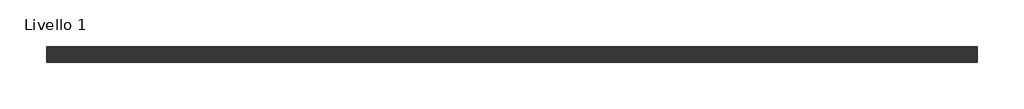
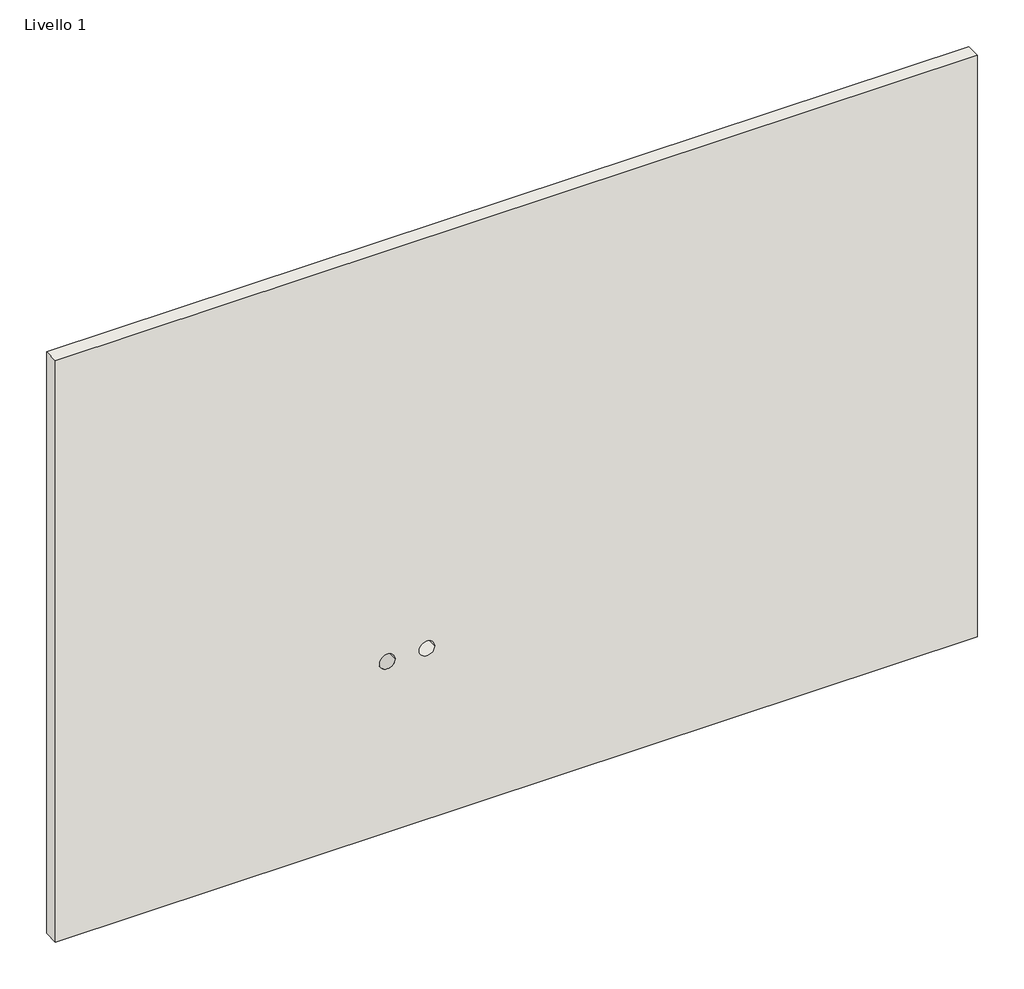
# One storey, incomplete: 1 wall.
"""IFC4 building model written with IfcOpenShell, lengths in millimetres."""

import ifcopenshell
import ifcopenshell.guid

model = None  # the IFC model being written
_history = None  # IfcOwnerHistory: only IFC2X3 demands one
_inside = {}  # id of a spatial element -> (the spatial element, [elements in it])
_under = {}  # id of a project, library or spatial element -> (it, [spatial elements below it])
_declared = {}  # id of a project -> (the project, [libraries it declares])
_typed = {}  # id of a type object -> (the type object, [elements of that type])
_made_of = {}  # id of a material, layer set ... -> (it, [elements and type objects made of it])


def new_model(schema):
    """Start an empty IFC model of exactly this schema.

    Asked for "IFC4X3", IfcOpenShell would pick the latest addendum, in which some entities
    have other attributes; the version numbers below select the first issue.
    IFC2X3 requires an IfcOwnerHistory on every rooted entity: one is made here for all.
    """
    global model, _history
    if schema == "IFC4X3":
        model = ifcopenshell.file(schema_version=(4, 3, 0, 0))
    else:
        model = ifcopenshell.file(schema=schema)
    _inside.clear()
    _under.clear()
    _declared.clear()
    _typed.clear()
    _made_of.clear()
    _history = None
    if model.schema == "IFC2X3":
        org = make("IfcOrganization", Name="unknown")
        user = make(
            "IfcPersonAndOrganization",
            ThePerson=make("IfcPerson", FamilyName="unknown"),
            TheOrganization=org,
        )
        app = make(
            "IfcApplication",
            ApplicationDeveloper=org,
            Version="unknown",
            ApplicationFullName="unknown",
            ApplicationIdentifier="unknown",
        )
        _history = make(
            "IfcOwnerHistory",
            OwningUser=user,
            OwningApplication=app,
            ChangeAction="ADDED",
            CreationDate=0,
        )
    return model


def make(cls, **values):
    """One entity of the class cls with the attributes given. An attribute that is None is left unset."""
    return model.create_entity(
        cls, **{name: value for name, value in values.items() if value is not None}
    )


def rooted(cls, **values):
    """An entity with a GlobalId (a new one), such as an element, a storey or a relation."""
    return make(cls, GlobalId=ifcopenshell.guid.new(), OwnerHistory=_history, **values)


def si_unit(unit_type, name, prefix=None):
    """IfcSIUnit, for example si_unit("LENGTHUNIT", "METRE", prefix="MILLI")."""
    return make("IfcSIUnit", UnitType=unit_type, Prefix=prefix, Name=name)


def assignment(units):
    """IfcUnitAssignment: the units of a project."""
    return None if units is None else make("IfcUnitAssignment", Units=units)


def point(xyz):
    """IfcCartesianPoint."""
    return None if xyz is None else make("IfcCartesianPoint", Coordinates=xyz)


def direction(xyz):
    """IfcDirection."""
    return None if xyz is None else make("IfcDirection", DirectionRatios=xyz)


def frame(location, z_axis=None, x_axis=None):
    """IfcAxis2Placement3D, a coordinate frame: its origin and axes. An axis left out is left unset."""
    return make(
        "IfcAxis2Placement3D",
        Location=point(location),
        Axis=direction(z_axis),
        RefDirection=direction(x_axis),
    )


def frame_2d(location, x_axis=None):
    """IfcAxis2Placement2D, a coordinate frame in the plane: its origin and x axis."""
    return make(
        "IfcAxis2Placement2D", Location=point(location), RefDirection=direction(x_axis)
    )


def origin():
    """The frame at (0, 0, 0) with its axes left unset."""
    return frame((0.0, 0.0, 0.0))


def place(relative_to, where):
    """IfcLocalPlacement: puts the frame where relative to a parent placement (None: the world)."""
    return make(
        "IfcLocalPlacement", PlacementRelTo=relative_to, RelativePlacement=where
    )


def context(
    kind, dimensions, precision=None, world=None, true_north=None, identifier=None
):
    """IfcGeometricRepresentationContext, for example the 3D "Model" context."""
    return make(
        "IfcGeometricRepresentationContext",
        ContextIdentifier=identifier,
        ContextType=kind,
        CoordinateSpaceDimension=dimensions,
        Precision=precision,
        WorldCoordinateSystem=world,
        TrueNorth=true_north,
    )


def project(units=None, contexts=None):
    """IfcProject with its units and contexts."""
    return rooted(
        "IfcProject",
        Name="project",
        RepresentationContexts=contexts,
        UnitsInContext=assignment(units),
    )


def spatial(cls, under=None, at=None, **own):
    """A site, building, storey or space (cls), placed at a placement, below another one or the project."""
    s = rooted(cls, ObjectPlacement=at, **own)
    if under is not None:
        _under.setdefault(under.id(), (under, []))[1].append(s)
    return s


def polyline(points):
    """IfcPolyline through the points."""
    return make("IfcPolyline", Points=[point(p) for p in points])


def circle_curve(where, radius):
    """IfcCircle in the frame where."""
    return make("IfcCircle", Position=where, Radius=radius)


def trimmed(basis, trim1, trim2, sense, master):
    """IfcTrimmedCurve: the piece of a basis curve between two trims."""
    return make(
        "IfcTrimmedCurve",
        BasisCurve=basis,
        Trim1=trim1,
        Trim2=trim2,
        SenseAgreement=sense,
        MasterRepresentation=master,
    )


def segment(curve, same_sense, transition):
    """IfcCompositeCurveSegment."""
    return make(
        "IfcCompositeCurveSegment",
        Transition=transition,
        SameSense=same_sense,
        ParentCurve=curve,
    )


def composite_curve(segments, self_intersect=None):
    """IfcCompositeCurve: segments joined end to end."""
    return make("IfcCompositeCurve", Segments=segments, SelfIntersect=self_intersect)


def outline(outer, holes=None, kind="AREA"):
    """IfcArbitraryClosedProfileDef: a profile drawn as a closed curve; with holes, ...WithVoids."""
    if holes is None:
        return make("IfcArbitraryClosedProfileDef", ProfileType=kind, OuterCurve=outer)
    return make(
        "IfcArbitraryProfileDefWithVoids",
        ProfileType=kind,
        OuterCurve=outer,
        InnerCurves=holes,
    )


def extrude(swept, where, along, depth):
    """IfcExtrudedAreaSolid: the profile swept, set in the frame where, extruded along a direction by depth."""
    return make(
        "IfcExtrudedAreaSolid",
        SweptArea=swept,
        Position=where,
        ExtrudedDirection=direction(along),
        Depth=depth,
    )


def shape(context_of_items, identifier, shape_type, items):
    """IfcShapeRepresentation: the items that make up one representation, for example the "Body"."""
    return make(
        "IfcShapeRepresentation",
        ContextOfItems=context_of_items,
        RepresentationIdentifier=identifier,
        RepresentationType=shape_type,
        Items=items,
    )


def made_of(thing, what):
    """Note that an element or type object is made of a material, layer set ...; save() writes the relation."""
    if what is not None:
        _made_of.setdefault(what.id(), (what, []))[1].append(thing)
    return thing


def element(
    cls,
    number,
    at=None,
    inside=None,
    cuts=None,
    type_object=None,
    material=None,
    context=None,
    identifier="Body",
    shape_type=None,
    held_by="IfcProductDefinitionShape",
    body=None,
    shapes=None,
    **own,
):
    """One element of the class cls, such as IfcWall. Its Tag is "e" and its number.

    at: its placement. inside: the storey or other place that contains it. cuts: it is an
    opening in that element (IfcRelVoidsElement). A single representation is given by context,
    identifier, shape_type and body (its items); several are given by shapes. held_by: the class
    of the entity that holds the representations. save() writes the other relations.
    """
    e = rooted(cls, Tag="e%d" % number, ObjectPlacement=at, **own)
    if body is not None:
        shapes = [shape(context, identifier, shape_type, body)]
    if shapes is not None:
        e.Representation = make(held_by, Representations=shapes)
    if inside is not None:
        _inside.setdefault(inside.id(), (inside, []))[1].append(e)
    if cuts is not None:
        rooted(
            "IfcRelVoidsElement", RelatingBuildingElement=cuts, RelatedOpeningElement=e
        )
    if type_object is not None:
        _typed.setdefault(type_object.id(), (type_object, []))[1].append(e)
    return made_of(e, material)


def aggregate(whole, parts):
    """IfcRelAggregates: a whole, such as a stair, and the parts it consists of."""
    return rooted("IfcRelAggregates", RelatingObject=whole, RelatedObjects=parts)


def save(model, path):
    """Write the relations noted so far, then the file.

    IfcRelAggregates (storeys below a building ...), IfcRelContainedInSpatialStructure (elements
    in a storey), IfcRelDefinesByType, IfcRelAssociatesMaterial and IfcRelDeclares: one each for
    every whole, place, type object, material and project.
    """
    for whole, parts in _under.values():
        aggregate(whole, parts)
    for where, things in _inside.values():
        rooted(
            "IfcRelContainedInSpatialStructure",
            RelatedElements=things,
            RelatingStructure=where,
        )
    for kind, things in _typed.values():
        rooted("IfcRelDefinesByType", RelatedObjects=things, RelatingType=kind)
    for what, things in _made_of.values():
        rooted("IfcRelAssociatesMaterial", RelatedObjects=things, RelatingMaterial=what)
    for by, libraries in _declared.values():
        rooted("IfcRelDeclares", RelatingContext=by, RelatedDefinitions=libraries)
    model.write(path)


model = new_model("IFC4")

# Units and contexts
model_context = context("Model", 3, world=origin())
ifc_project = project(units=[si_unit("LENGTHUNIT", "METRE", prefix="MILLI")], contexts=[model_context])

# Site, building, storey
site = spatial("IfcSite", under=ifc_project)
building = spatial("IfcBuilding", under=site)
storey = spatial("IfcBuildingStorey", under=building, Name="Livello 1", Elevation=0.0)

# Wall
placement = place(None, origin())
element("IfcWall", 1, ObjectType="Generico - 200 mm", at=placement, inside=storey, context=model_context, shape_type="SweptSolid", body=[
    extrude(outline(polyline([(0.0, -5596.516632), (0.0, 6403.483368), (8000.0, 6403.483368), (8000.0, -5596.516632), (0.0, -5596.516632)]), holes=[composite_curve([segment(trimmed(circle_curve(frame_2d((2349.5, -1276.516632)), 100.0), [point((2349.5, -1376.516632))], [point((2349.5, -1176.516632))], True, "CARTESIAN"), True, "CONTINUOUS"), segment(trimmed(circle_curve(frame_2d((2349.5, -1276.516632)), 100.0), [point((2349.5, -1176.516632))], [point((2349.5, -1376.516632))], True, "CARTESIAN"), True, "CONTINUOUS")], self_intersect=False), composite_curve([segment(trimmed(circle_curve(frame_2d((2349.5, -761.516632)), 100.0), [point((2349.5, -661.516632))], [point((2349.5, -861.516632))], True, "CARTESIAN"), True, "CONTINUOUS"), segment(trimmed(circle_curve(frame_2d((2349.5, -761.516632)), 100.0), [point((2349.5, -861.516632))], [point((2349.5, -661.516632))], True, "CARTESIAN"), True, "CONTINUOUS")], self_intersect=False)]), frame((0.0, 1328.6340326, 0.0), z_axis=(0.0, 1.0, 0.0), x_axis=(0.0, 0.0, 1.0)), (0.0, 0.0, 1.0), 200.0),
])

save(model, "model.ifc")
